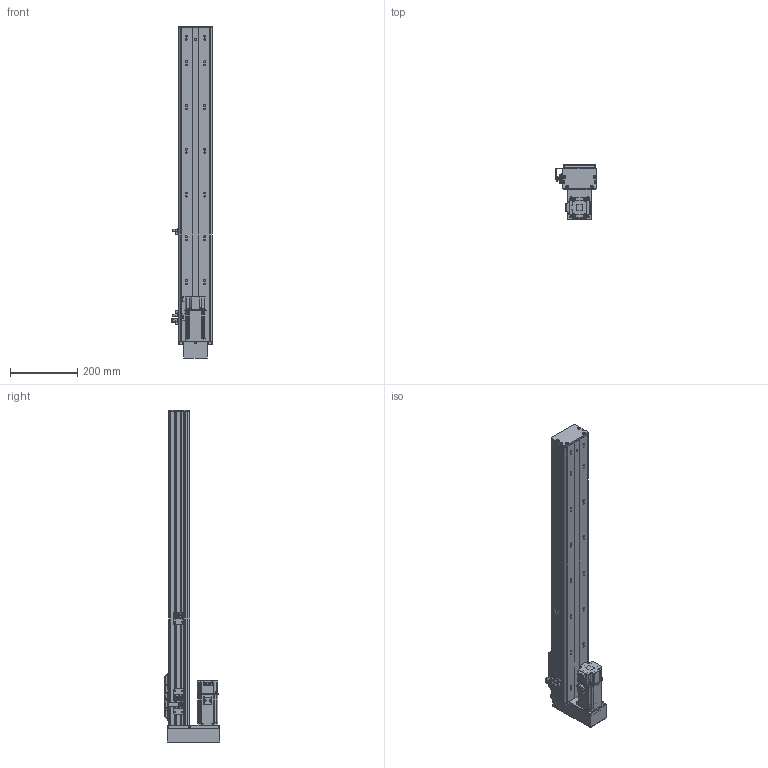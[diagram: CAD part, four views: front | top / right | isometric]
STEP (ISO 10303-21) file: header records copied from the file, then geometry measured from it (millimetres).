
FILE_DESCRIPTION (( 'STEP AP203' ), '1' );
FILE_NAME ('BOSW100-750-1610-1P-DM-M400W-O-S3（方程式2016）.step', '2020-10-10T06:46:46', ( '' ), ( '' ), 'SwSTEP 2.0', 'SolidWorks 2016', '' );
FILE_SCHEMA (( 'CONFIG_CONTROL_DESIGN' ));
Length unit declared in the file: millimetre
Products named in the file (14): BOSW-100-綴裔啣; 新结构AIMSW-100-1P-宽&高轨共用-滑动座上组件; BOS100-DM鎮湛欶; 俋境嫖覜嘐隅啣; BOS-100-DM鎮湛假蚾啣; BOSW&TW-100-俋离覜茼え; BOSW-100-1P-DM-750諦誧芞; BOSW100-750-1610-1P-DM-M400W-O-S3（方程式2016）; BOSW&TW-100-詩湍揤沭(陔賦凳); S400W(SMA-L040); 放大器内置U型微型光电传感器PM-L65; BOSW-100-1P-DM-宽轨-侧板-750客户图纸; BOSW-100-1P-DM-宽轨-钢带-750客户图纸; BOSW&TW-100-1P-賑雄釱欶
Assembly tree (19 placements, depth 2):
  BOSW100-750-1610-1P-DM-M400W-O-S3（方程式2016）
    BOSW-100-1P-DM-750諦誧芞
    BOSW-100-綴裔啣
    新结构AIMSW-100-1P-宽&高轨共用-滑动座上组件
    S400W(SMA-L040)
    BOSW&TW-100-詩湍揤沭(陔賦凳)  x2
    BOSW&TW-100-1P-賑雄釱欶
    BOSW&TW-100-俋离覜茼え
    俋境嫖覜嘐隅啣  x3
    放大器内置U型微型光电传感器PM-L65  x3
    BOSW-100-1P-DM-宽轨-侧板-750客户图纸  x2
    BOSW-100-1P-DM-宽轨-钢带-750客户图纸
    BOS100-DM鎮湛欶
    BOS-100-DM鎮湛假蚾啣
Bounding box: 120.9 x 164 x 986 mm (x, y, z)
Volume: 2185394 mm3; surface area: 1018902.5 mm2
Topology: 19 solids, 19 shells, 2568 faces, 6782 edges, 4337 vertices
Faces by surface type: plane 1269, cylinder 823, bspline 271, cone 157, torus 36, sphere 12
Entity records: 70787 total; most frequent: CARTESIAN_POINT 21100, ORIENTED_EDGE 10120, DIRECTION 9808, EDGE_CURVE 5060, AXIS2_PLACEMENT_3D 3476, VERTEX_POINT 3239, VECTOR 2856, LINE 2856
